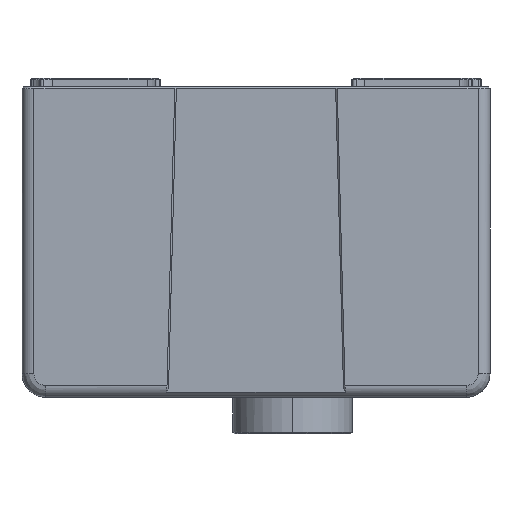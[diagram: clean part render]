
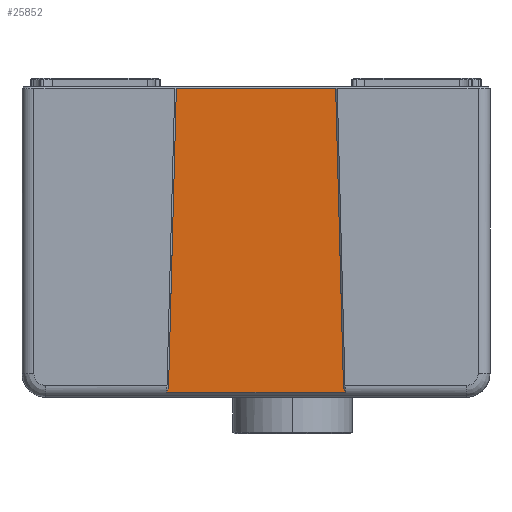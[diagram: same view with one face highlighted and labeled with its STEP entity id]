
A CAD part, left-side view. The second image highlights one B-rep face of the part: STEP entity #25852.
In plain terms, the highlighted planar face has unit normal (-1, 0, -0.018).
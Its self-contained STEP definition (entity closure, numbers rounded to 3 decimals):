
#504 = VERTEX_POINT ( 'NONE', #21490 ) ;
#613 = CARTESIAN_POINT ( 'NONE',  ( -14.577, 4.997, -3.835 ) ) ;
#861 = VERTEX_POINT ( 'NONE', #13363 ) ;
#2964 = CARTESIAN_POINT ( 'NONE',  ( -14.243, -5.523, -22.957 ) ) ;
#3403 = ORIENTED_EDGE ( 'NONE', *, *, #36557, .T. ) ;
#3426 = DIRECTION ( 'NONE',  ( 0., 1., 0. ) ) ;
#3553 = CARTESIAN_POINT ( 'NONE',  ( -14.244, -5.496, -22.879 ) ) ;
#4329 = CARTESIAN_POINT ( 'NONE',  ( -14.243, 5.524, -22.958 ) ) ;
#4723 = DIRECTION ( 'NONE',  ( -1., 0., -0.017 ) ) ;
#4760 = EDGE_CURVE ( 'NONE', #18695, #6316, #12958, .T. ) ;
#5017 = B_SPLINE_CURVE_WITH_KNOTS ( 'NONE', 3,
 ( #22506, #19386, #7639, #4329, #7438, #25623, #7250, #37679, #13515 ),
 .UNSPECIFIED., .F., .F.,
 ( 4, 1, 2, 2, 4 ),
 ( 0., 0.25, 0.375, 0.5, 1. ),
 .UNSPECIFIED. ) ;
#5104 = DIRECTION ( 'NONE',  ( 0.017, 0., -1. ) ) ;
#5751 = CARTESIAN_POINT ( 'NONE',  ( -14.573, -5.003, -4.037 ) ) ;
#6316 = VERTEX_POINT ( 'NONE', #5751 ) ;
#7250 = CARTESIAN_POINT ( 'NONE',  ( -14.242, 5.558, -23.035 ) ) ;
#7438 = CARTESIAN_POINT ( 'NONE',  ( -14.243, 5.532, -22.978 ) ) ;
#7639 = CARTESIAN_POINT ( 'NONE',  ( -14.244, 5.512, -22.928 ) ) ;
#9205 = ORIENTED_EDGE ( 'NONE', *, *, #29596, .T. ) ;
#10603 = CARTESIAN_POINT ( 'NONE',  ( -14.575, -4.9, -3.937 ) ) ;
#11969 = LINE ( 'NONE', #613, #20241 ) ;
#12362 = CARTESIAN_POINT ( 'NONE',  ( -14.233, -5.513, -23.529 ) ) ;
#12958 = LINE ( 'NONE', #12362, #24993 ) ;
#13088 = ORIENTED_EDGE ( 'NONE', *, *, #29550, .T. ) ;
#13200 = VERTEX_POINT ( 'NONE', #30863 ) ;
#13363 = CARTESIAN_POINT ( 'NONE',  ( -14.573, 5.003, -4.037 ) ) ;
#13515 = CARTESIAN_POINT ( 'NONE',  ( -14.24, 5.601, -23.112 ) ) ;
#17700 = CARTESIAN_POINT ( 'NONE',  ( -14.573, 5., -4.037 ) ) ;
#18027 = CARTESIAN_POINT ( 'NONE',  ( -14.24, -5.601, -23.112 ) ) ;
#18395 = DIRECTION ( 'NONE',  ( 0., -1., 0. ) ) ;
#18396 = CARTESIAN_POINT ( 'NONE',  ( -14.244, -5.508, -22.917 ) ) ;
#18695 = VERTEX_POINT ( 'NONE', #23973 ) ;
#19386 = CARTESIAN_POINT ( 'NONE',  ( -14.244, 5.502, -22.898 ) ) ;
#20241 = VECTOR ( 'NONE', #35702, 1000. ) ;
#21490 = CARTESIAN_POINT ( 'NONE',  ( -14.24, -5.601, -23.112 ) ) ;
#22506 = CARTESIAN_POINT ( 'NONE',  ( -14.244, 5.496, -22.879 ) ) ;
#23698 = CARTESIAN_POINT ( 'NONE',  ( -14.242, -5.546, -23.009 ) ) ;
#23909 = LINE ( 'NONE', #24293, #29091 ) ;
#23911 = CARTESIAN_POINT ( 'NONE',  ( -14.241, -5.589, -23.093 ) ) ;
#23973 = CARTESIAN_POINT ( 'NONE',  ( -14.244, -5.496, -22.879 ) ) ;
#24097 = CARTESIAN_POINT ( 'NONE',  ( -14.242, -5.55, -23.017 ) ) ;
#24293 = CARTESIAN_POINT ( 'NONE',  ( -14.24, 5.502, -23.112 ) ) ;
#24993 = VECTOR ( 'NONE', #36501, 1000. ) ;
#25256 = FACE_OUTER_BOUND ( 'NONE', #30164, .T. ) ;
#25623 = CARTESIAN_POINT ( 'NONE',  ( -14.242, 5.537, -22.989 ) ) ;
#25852 = ADVANCED_FACE ( 'NONE', ( #25256 ), #37306, .T. ) ;
#27393 = CARTESIAN_POINT ( 'NONE',  ( -14.242, -5.559, -23.035 ) ) ;
#27570 = EDGE_CURVE ( 'NONE', #33262, #13200, #5017, .T. ) ;
#27970 = ORIENTED_EDGE ( 'NONE', *, *, #27570, .T. ) ;
#29091 = VECTOR ( 'NONE', #18395, 1000. ) ;
#29207 = B_SPLINE_CURVE_WITH_KNOTS ( 'NONE', 3,
 ( #18027, #23911, #30369, #27393, #24097, #23698, #2964, #18396, #3553 ),
 .UNSPECIFIED., .F., .F.,
 ( 4, 1, 2, 2, 4 ),
 ( 0., 0.25, 0.375, 0.5, 1. ),
 .UNSPECIFIED. ) ;
#29550 = EDGE_CURVE ( 'NONE', #861, #33262, #11969, .T. ) ;
#29596 = EDGE_CURVE ( 'NONE', #504, #18695, #29207, .T. ) ;
#30078 = CARTESIAN_POINT ( 'NONE',  ( -14.244, 5.496, -22.879 ) ) ;
#30164 = EDGE_LOOP ( 'NONE', ( #36565, #3403, #13088, #27970, #32493, #9205 ) ) ;
#30369 = CARTESIAN_POINT ( 'NONE',  ( -14.241, -5.573, -23.064 ) ) ;
#30863 = CARTESIAN_POINT ( 'NONE',  ( -14.24, 5.601, -23.112 ) ) ;
#31915 = EDGE_CURVE ( 'NONE', #13200, #504, #23909, .T. ) ;
#32436 = AXIS2_PLACEMENT_3D ( 'NONE', #10603, #4723, #5104 ) ;
#32493 = ORIENTED_EDGE ( 'NONE', *, *, #31915, .T. ) ;
#32637 = VECTOR ( 'NONE', #3426, 1000. ) ;
#33262 = VERTEX_POINT ( 'NONE', #30078 ) ;
#35575 = LINE ( 'NONE', #17700, #32637 ) ;
#35702 = DIRECTION ( 'NONE',  ( 0.017, 0.026, -1. ) ) ;
#36501 = DIRECTION ( 'NONE',  ( -0.017, 0.026, 1. ) ) ;
#36557 = EDGE_CURVE ( 'NONE', #6316, #861, #35575, .T. ) ;
#36565 = ORIENTED_EDGE ( 'NONE', *, *, #4760, .T. ) ;
#37306 = PLANE ( 'NONE',  #32436 ) ;
#37679 = CARTESIAN_POINT ( 'NONE',  ( -14.241, 5.578, -23.073 ) ) ;
